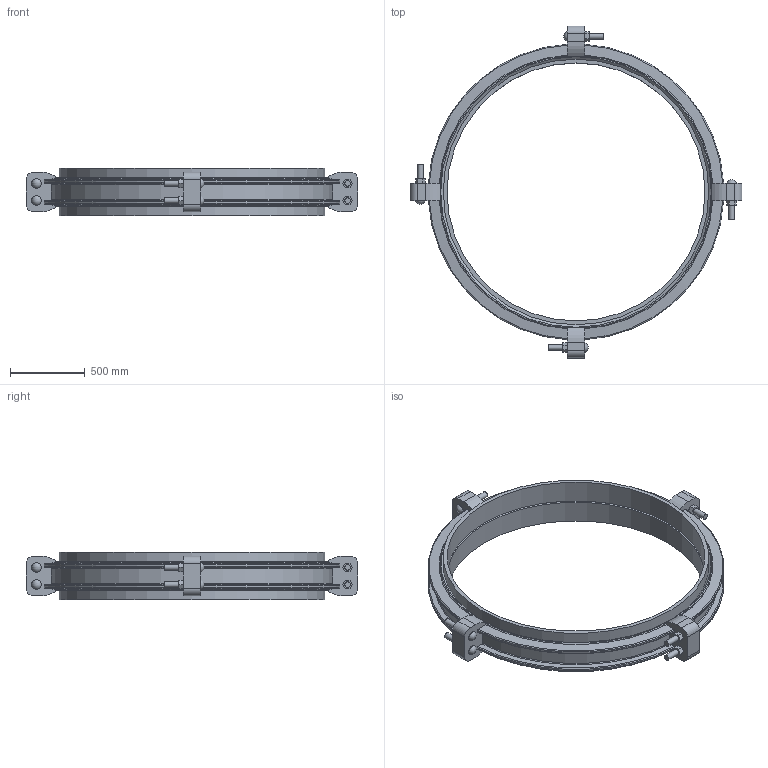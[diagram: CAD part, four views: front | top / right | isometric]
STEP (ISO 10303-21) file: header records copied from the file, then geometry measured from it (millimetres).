
FILE_DESCRIPTION(/* description */ ('VIC COUPLING FLEX STYLE W77 AGS VIC-RING ','CAx-IF Rec.Pracs.---Representation and Presentation of Product Manufacturing Information (PMI)---4.0---2014-10-13'),/* implementation_level */ '2;1');
FILE_NAME(/* name */ 'C:\Users\Vjadhav\AppData\Roaming\Autodesk\ApplicationPlugins\Victaulic.Temp\A52\Victaulic_Vic-Ring_Coupling Flexible_Style W77 (AGR)_70 (1750).stp',/* time_stamp */ '2021-12-20T11:07:27+06:00',/* author */ ('Vjadhav'),/* organization */ ('Victaulic'),/* preprocessor_version */ 'ST-DEVELOPER v17.2',/* originating_system */ 'Autodesk Inventor 2019',/* authorisation */ '');
FILE_SCHEMA (('AP242_MANAGED_MODEL_BASED_3D_ENGINEERING_MIM_LF { 1 0 10303 442 1 1 4 }'));
Length unit declared in the file: inch
Products named in the file (3): W77 VR-70.0; W77-VR-70.0; W77 VR-70.0_1
Assembly tree (3 placements, depth 2):
  W77 VR-70.0
    W77-VR-70.0
    W77 VR-70.0_1  x2
Bounding box: 2222.5 x 2222.5 x 316.74 mm (x, y, z)
Volume: 134929162.3 mm3; surface area: 8519266 mm2
Topology: 3 solids, 11 shells, 279 faces, 745 edges, 512 vertices
Faces by surface type: plane 138, cylinder 83, torus 32, cone 18, sphere 8
Full cylindrical faces by diameter (mm): 38.1 x16, 63.5 x8, 1727.2 x2, 1758.95 x1, 1778 x4
Entity records: 10061 total; most frequent: CARTESIAN_POINT 2672, ORIENTED_EDGE 1470, DIRECTION 1457, EDGE_CURVE 735, AXIS2_PLACEMENT_3D 537, VERTEX_POINT 504, LINE 383, VECTOR 383
